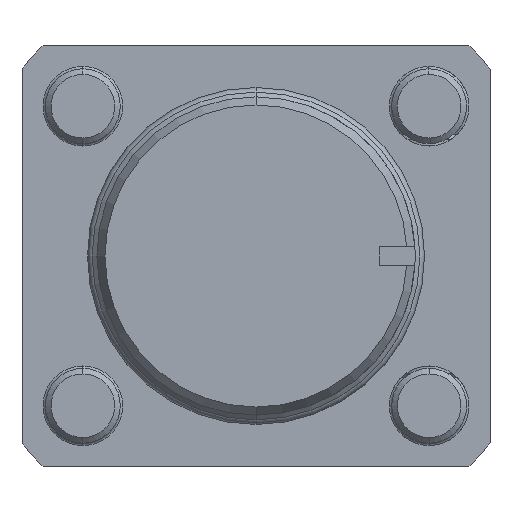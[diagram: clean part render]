
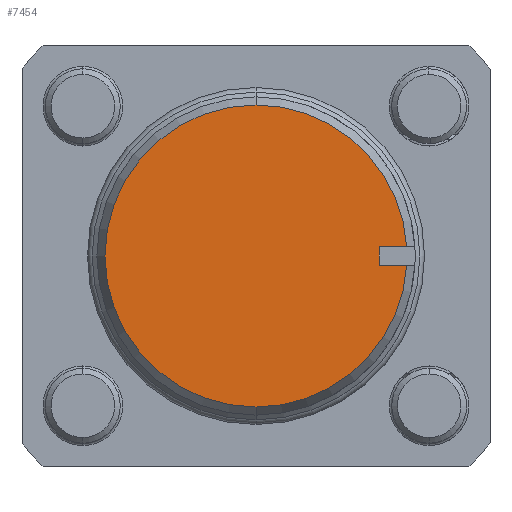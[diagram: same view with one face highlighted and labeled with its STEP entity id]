
A CAD part, front view. The second image highlights one B-rep face of the part: STEP entity #7454.
In plain terms, the highlighted planar face has unit normal (0, -1, 0).
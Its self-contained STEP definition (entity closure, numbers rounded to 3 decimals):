
#43 = CARTESIAN_POINT ( 'NONE',  ( 16.103, 0., -1. ) ) ;
#70 = DIRECTION ( 'NONE',  ( 0., 0., 1. ) ) ;
#259 = LINE ( 'NONE', #1053, #2320 ) ;
#466 = VERTEX_POINT ( 'NONE', #43 ) ;
#478 = FACE_OUTER_BOUND ( 'NONE', #7810, .T. ) ;
#724 = EDGE_CURVE ( 'NONE', #6244, #8308, #3089, .T. ) ;
#898 = CARTESIAN_POINT ( 'NONE',  ( 0., 0., -16.134 ) ) ;
#1029 = LINE ( 'NONE', #1091, #4754 ) ;
#1053 = CARTESIAN_POINT ( 'NONE',  ( 13.141, 0., 1. ) ) ;
#1091 = CARTESIAN_POINT ( 'NONE',  ( 18.326, 0., -1. ) ) ;
#1148 = DIRECTION ( 'NONE',  ( -1., 0., 0. ) ) ;
#1182 = ORIENTED_EDGE ( 'NONE', *, *, #724, .T. ) ;
#1207 = EDGE_CURVE ( 'NONE', #9006, #3158, #259, .T. ) ;
#1339 = CARTESIAN_POINT ( 'NONE',  ( 0., 0., 0. ) ) ;
#1378 = EDGE_CURVE ( 'NONE', #5551, #466, #4289, .T. ) ;
#1699 = EDGE_CURVE ( 'NONE', #8308, #5551, #7482, .T. ) ;
#2026 = DIRECTION ( 'NONE',  ( 0., 0., 1. ) ) ;
#2046 = CARTESIAN_POINT ( 'NONE',  ( 13.141, 0., 1. ) ) ;
#2320 = VECTOR ( 'NONE', #8011, 1000. ) ;
#2457 = CARTESIAN_POINT ( 'NONE',  ( 0., 0., 0. ) ) ;
#2483 = EDGE_CURVE ( 'NONE', #6244, #9006, #5028, .T. ) ;
#2502 = AXIS2_PLACEMENT_3D ( 'NONE', #2457, #3151, #8065 ) ;
#3089 = CIRCLE ( 'NONE', #6489, 16.134 ) ;
#3143 = CARTESIAN_POINT ( 'NONE',  ( 0., 0., 0. ) ) ;
#3151 = DIRECTION ( 'NONE',  ( 0., 1., 0. ) ) ;
#3158 = VERTEX_POINT ( 'NONE', #3716 ) ;
#3716 = CARTESIAN_POINT ( 'NONE',  ( 13.141, 0., -1. ) ) ;
#3843 = DIRECTION ( 'NONE',  ( 0., 0., 1. ) ) ;
#4036 = AXIS2_PLACEMENT_3D ( 'NONE', #1339, #6271, #2026 ) ;
#4252 = DIRECTION ( 'NONE',  ( 0., -1., 0. ) ) ;
#4289 = CIRCLE ( 'NONE', #4036, 16.134 ) ;
#4637 = CARTESIAN_POINT ( 'NONE',  ( 18.326, 0., 1. ) ) ;
#4671 = ORIENTED_EDGE ( 'NONE', *, *, #1207, .F. ) ;
#4754 = VECTOR ( 'NONE', #6716, 1000. ) ;
#5028 = LINE ( 'NONE', #4637, #8525 ) ;
#5551 = VERTEX_POINT ( 'NONE', #898 ) ;
#5684 = ORIENTED_EDGE ( 'NONE', *, *, #1699, .T. ) ;
#6023 = ORIENTED_EDGE ( 'NONE', *, *, #2483, .F. ) ;
#6244 = VERTEX_POINT ( 'NONE', #6899 ) ;
#6271 = DIRECTION ( 'NONE',  ( 0., -1., 0. ) ) ;
#6489 = AXIS2_PLACEMENT_3D ( 'NONE', #3143, #8058, #3843 ) ;
#6691 = PLANE ( 'NONE',  #2502 ) ;
#6716 = DIRECTION ( 'NONE',  ( 1., 0., 0. ) ) ;
#6899 = CARTESIAN_POINT ( 'NONE',  ( 16.103, 0., 1. ) ) ;
#7120 = CARTESIAN_POINT ( 'NONE',  ( 0., 0., 16.134 ) ) ;
#7182 = ORIENTED_EDGE ( 'NONE', *, *, #1378, .T. ) ;
#7454 = ADVANCED_FACE ( 'NONE', ( #478 ), #6691, .F. ) ;
#7482 = CIRCLE ( 'NONE', #8215, 16.134 ) ;
#7810 = EDGE_LOOP ( 'NONE', ( #4671, #6023, #1182, #5684, #7182, #8518 ) ) ;
#8011 = DIRECTION ( 'NONE',  ( 0., 0., -1. ) ) ;
#8058 = DIRECTION ( 'NONE',  ( 0., -1., 0. ) ) ;
#8065 = DIRECTION ( 'NONE',  ( 0., 0., 1. ) ) ;
#8066 = EDGE_CURVE ( 'NONE', #3158, #466, #1029, .T. ) ;
#8215 = AXIS2_PLACEMENT_3D ( 'NONE', #8457, #4252, #70 ) ;
#8308 = VERTEX_POINT ( 'NONE', #7120 ) ;
#8457 = CARTESIAN_POINT ( 'NONE',  ( 0., 0., 0. ) ) ;
#8518 = ORIENTED_EDGE ( 'NONE', *, *, #8066, .F. ) ;
#8525 = VECTOR ( 'NONE', #1148, 1000. ) ;
#9006 = VERTEX_POINT ( 'NONE', #2046 ) ;
